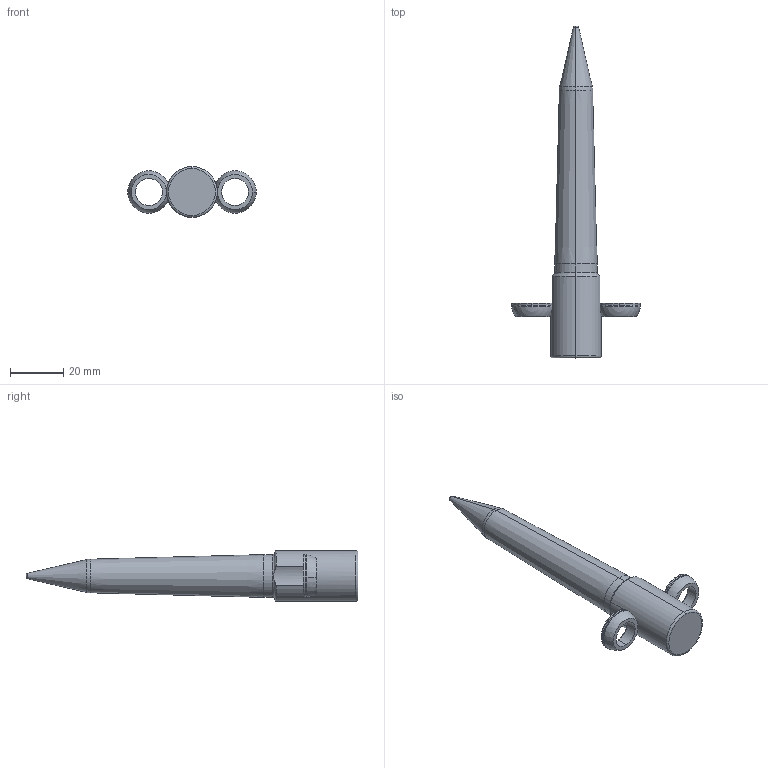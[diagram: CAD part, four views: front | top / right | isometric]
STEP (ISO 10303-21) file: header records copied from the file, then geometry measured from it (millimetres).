
FILE_DESCRIPTION (( 'STEP AP214' ), '1' );
FILE_NAME ('PA-T-16mm-3.2mm-65mm-3-A-F2.STEP', '2019-05-08T18:11:20', ( '' ), ( '' ), 'SwSTEP 2.0', 'SolidWorks 2017', '' );
FILE_SCHEMA (( 'AUTOMOTIVE_DESIGN' ));
Length unit declared in the file: inch
Products named in the file (3): SLRadiusWasher_RadiusWasher-M; SLPilot-PA-T-M_PA-T-16-3.2-65-3-A-F2; PA-T-16mm-3.2mm-65mm-3-A-F2
Assembly tree (3 placements, depth 2):
  PA-T-16mm-3.2mm-65mm-3-A-F2
    SLRadiusWasher_RadiusWasher-M  x2
    SLPilot-PA-T-M_PA-T-16-3.2-65-3-A-F2
Bounding box: 48.06 x 124.18 x 19 mm (x, y, z)
Volume: 22099.3 mm3; surface area: 6997.1 mm2
Topology: 3 solids, 3 shells, 61 faces, 136 edges, 81 vertices
Faces by surface type: torus 19, cylinder 18, cone 8, sphere 8, plane 8
Entity records: 1565 total; most frequent: CARTESIAN_POINT 344, DIRECTION 266, ORIENTED_EDGE 204, AXIS2_PLACEMENT_3D 123, EDGE_CURVE 102, CIRCLE 72, VERTEX_POINT 61, EDGE_LOOP 47
